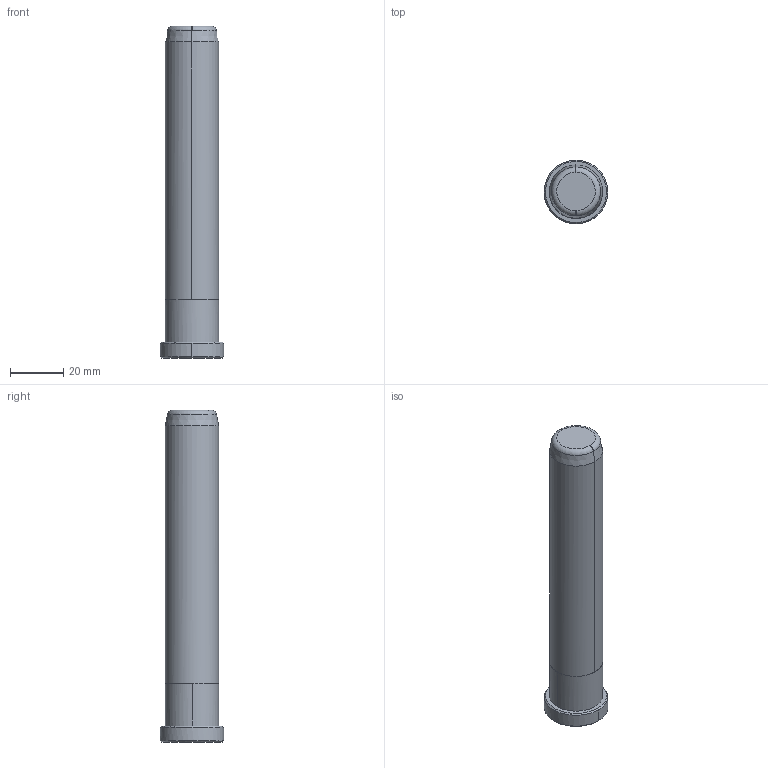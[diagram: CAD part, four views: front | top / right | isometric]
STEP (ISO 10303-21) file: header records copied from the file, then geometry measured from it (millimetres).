
FILE_DESCRIPTION(('CATIA V5 STEP Exchange'),'2;1');
FILE_NAME('C:\Users\Raffaele\Desktop\3D BOLEX\3D FILES CF BOLEX\12-PILLAR REF 858\B85820125.stp','2019-06-20T12:44:52+00:00',('none'),('none'),'CATIA Version 5 Release 20 GA (IN-10)','CATIA V5 STEP AP203','none');
FILE_SCHEMA(('CONFIG_CONTROL_DESIGN'));
Length unit declared in the file: millimetre
Products named in the file (1): B85820125
Bounding box: 24 x 24 x 125 mm (x, y, z)
Volume: 39867.8 mm3; surface area: 8679.9 mm2
Topology: 1 solids, 1 shells, 20 faces, 40 edges, 24 vertices
Faces by surface type: cone 6, cylinder 6, plane 4, torus 4
Entity records: 677 total; most frequent: CARTESIAN_POINT 238, ORIENTED_EDGE 80, DIRECTION 71, AXIS2_PLACEMENT_3D 40, EDGE_CURVE 40, VERTEX_POINT 24, EDGE_LOOP 22, ADVANCED_FACE 20
